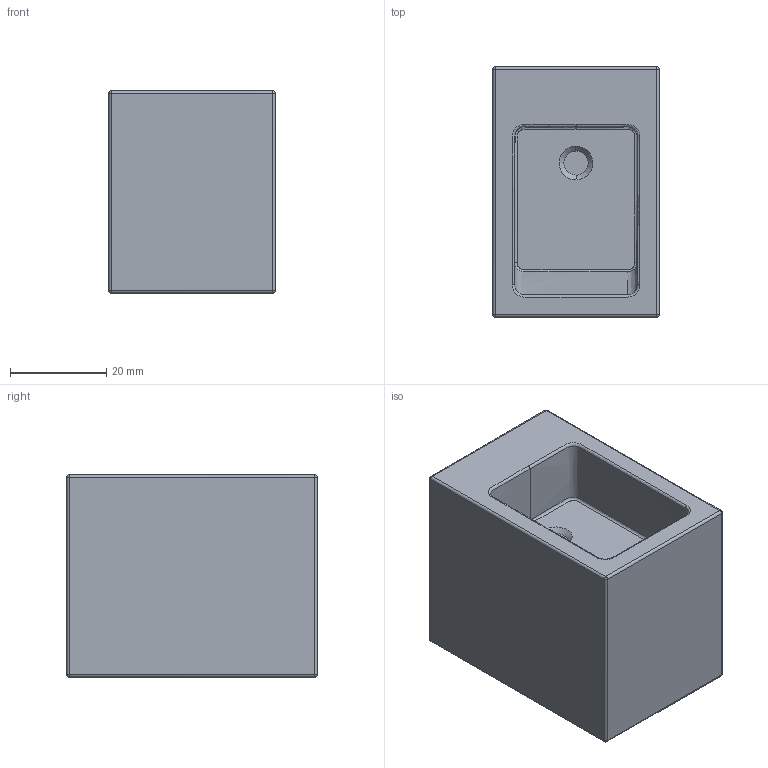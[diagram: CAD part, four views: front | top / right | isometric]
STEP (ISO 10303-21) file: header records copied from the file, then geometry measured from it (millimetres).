
FILE_DESCRIPTION(/* description */ (''),/* implementation_level */ '2;1');
FILE_NAME(/* name */ 'COOLBI~1',/* time_stamp */ '2020-06-09T08:20:59+02:00',/* author */ (''),/* organization */ (''),/* preprocessor_version */ 'ST-DEVELOPER v16.5',/* originating_system */ '',/* authorisation */ '');
FILE_SCHEMA (('AUTOMOTIVE_DESIGN'));
Length unit declared in the file: millimetre
Products named in the file (1): Document
Bounding box: 34.5 x 52 x 42 mm (x, y, z)
Volume: 63745.1 mm3; surface area: 12180.8 mm2
Topology: 1 solids, 1 shells, 38 faces, 76 edges, 42 vertices
Faces by surface type: bspline 30, plane 8
Entity records: 1743 total; most frequent: CARTESIAN_POINT 1306, ORIENTED_EDGE 152, EDGE_CURVE 76, VERTEX_POINT 42, EDGE_LOOP 40, ADVANCED_FACE 38, FACE_OUTER_BOUND 38, DIRECTION 12
